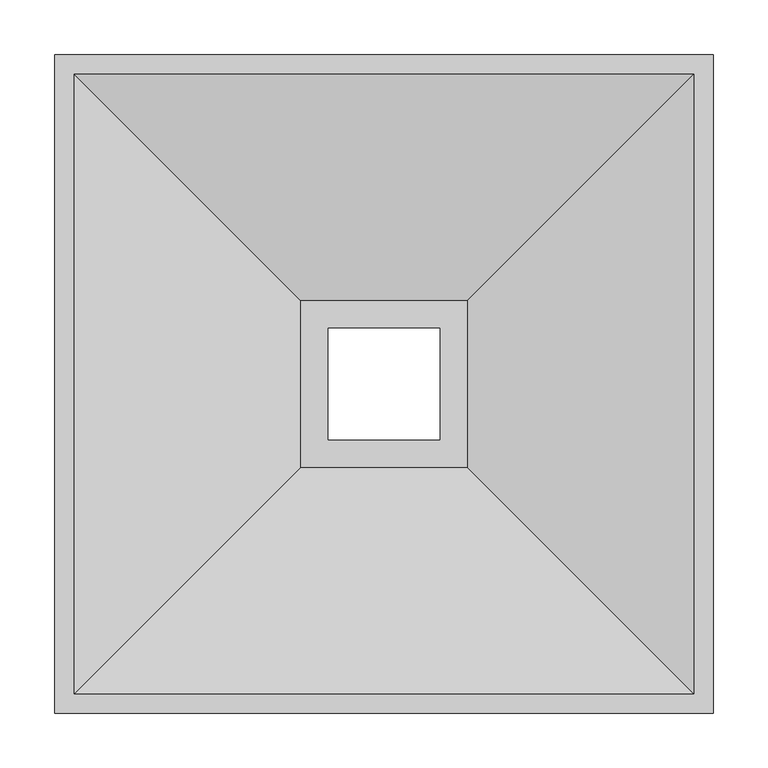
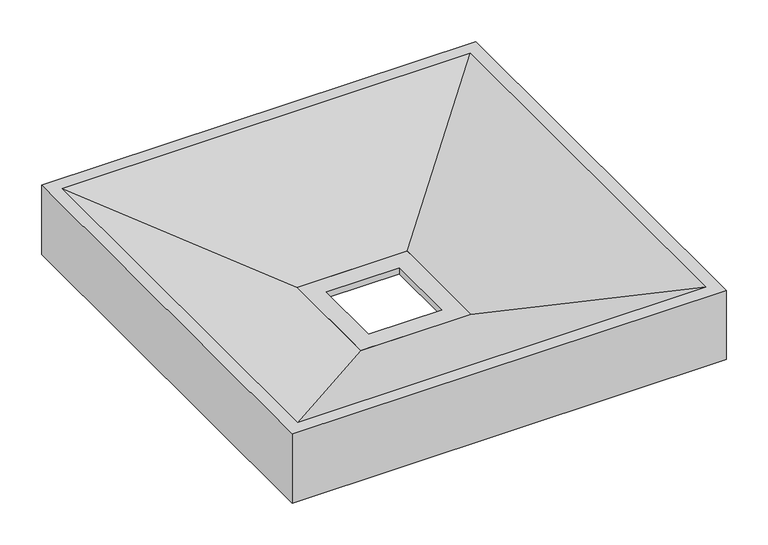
"""IFC4 building model written with IfcOpenShell, lengths in millimetres: proxy geometry, Turf_Pantheon Tile : Pantheon F."""

from ifc_helpers import new_model, si_unit, origin, origin_with_axes, place, context, project, spatial, polyline, outline, extrude, faceted_brep, source, transform, mapped, element, save


def specialty_equipment_50710738(model_context):
    return source(origin(), model_context, "Body", "SolidModel", [
        extrude(outline(polyline([(119.85625, -419.1), (-32.54375, -419.1), (-32.54375, -266.7), (119.85625, -266.7), (119.85625, -419.1)]), holes=[polyline([(94.45625, -393.7), (94.45625, -292.1), (-7.14375, -292.1), (-7.14375, -393.7), (94.45625, -393.7)])]), origin_with_axes(), (0.0, 0.0, 1.0), 9.0289063),
        faceted_brep([(119.85625, -419.1, 9.0289062), (326.5289063, -625.7726563, 101.6), (326.5289063, -60.0273438, 101.6), (119.85625, -266.7, 9.0289062), (-239.2164062, -60.0273438, 101.6), (-32.54375, -266.7, 9.0289062), (-239.2164062, -625.7726563, 101.6), (-32.54375, -419.1, 9.0289062), (344.4875, -42.06875, 101.6), (-257.175, -42.06875, 101.6), (-257.175, -643.73125, 101.6), (344.4875, -643.73125, 101.6), (344.4875, -42.06875, 0.0), (344.4875, -643.73125, 0.0), (-257.175, -643.73125, 0.0), (-257.175, -42.06875, 0.0), (119.85625, -419.1, 0.0), (119.85625, -266.7, 0.0), (-32.54375, -266.7, 0.0), (-32.54375, -419.1, 0.0)], [[[0, 1, 2, 3]], [[3, 2, 4, 5]], [[5, 4, 6, 7]], [[1, 0, 7, 6]], [[8, 9, 10, 11], [2, 1, 6, 4]], [[12, 13, 14, 15], [16, 17, 18, 19]], [[9, 8, 12, 15]], [[10, 9, 15, 14]], [[11, 10, 14, 13]], [[8, 11, 13, 12]], [[3, 17, 16, 0]], [[17, 3, 5, 18]], [[18, 5, 7, 19]], [[0, 16, 19, 7]]]),
    ])


if __name__ == "__main__":
    model = new_model("IFC4")
    model_context = context("Model", 3, world=origin())
    ifc_project = project(units=[si_unit("LENGTHUNIT", "METRE", prefix="MILLI")], contexts=[model_context])
    site = spatial("IfcSite", under=ifc_project)
    building = spatial("IfcBuilding", under=site)
    placement = place(None, origin())
    specialty_equipment_shape = specialty_equipment_50710738(model_context)
    element("IfcBuildingElementProxy", 1, Name="Turf_Pantheon Tile : Pantheon F", ObjectType="Turf_Pantheon Tile : Pantheon F", at=placement, inside=building, context=model_context, shape_type="MappedRepresentation", body=[
        mapped(specialty_equipment_shape, transform((0.0, 0.0, 0.0), x_axis=(1.0, 0.0, 0.0), y_axis=(0.0, 1.0, 0.0), z_axis=(0.0, 0.0, 1.0))),
    ])
    save(model, "model.ifc")
